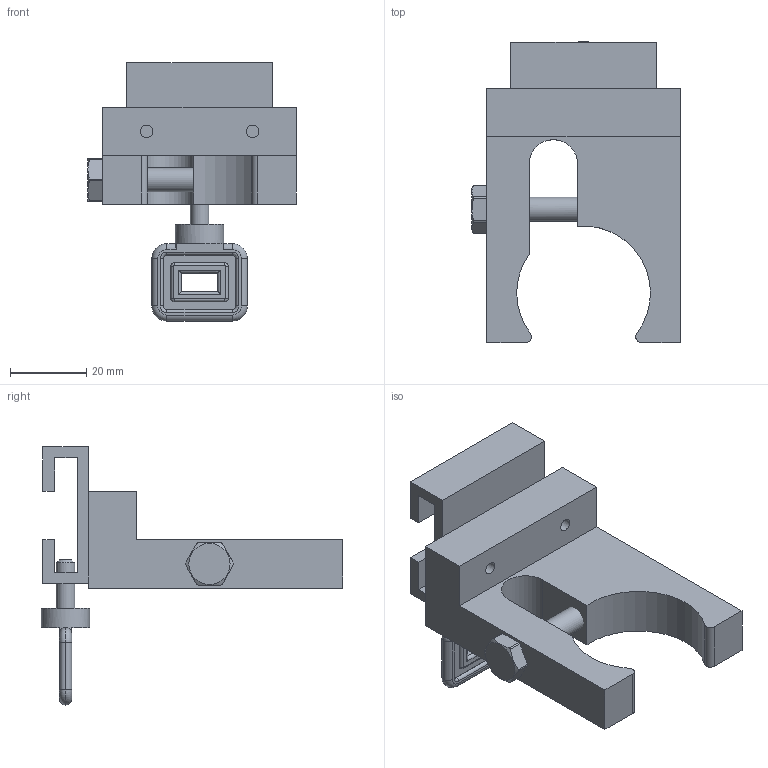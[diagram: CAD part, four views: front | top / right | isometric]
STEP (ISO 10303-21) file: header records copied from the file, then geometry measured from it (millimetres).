
FILE_DESCRIPTION((''),'2;1');
FILE_NAME('C:\3D Projects\3D Standard Parts\98327 Rev B Valve Mounting Bracket Kit For 97113 & 97114.stp','2008-04-24T10:35:18',('patch'),(''),'Autodesk Inventor 2008','Autodesk Inventor 2008','');
FILE_SCHEMA(('AUTOMOTIVE_DESIGN { 1 0 10303 214 1 1 1 1 }'));
Length unit declared in the file: inch
Products named in the file (6): 98327 Rev B Valve Mounting Bracket Kit For 97113 & 97114; 987960 Rev B Valve Mounting Bracket For 97113 & 97114; 987947 Rev A C-Clamp; 984331 Flat Head Socket Screw #8-32 x 0.5; 987948 Rev A Thumbscrew; 987903 Regular Hex Bolt 0.25-20 x 2
Assembly tree (6 placements, depth 2):
  98327 Rev B Valve Mounting Bracket Kit For 97113 & 97114
    987960 Rev B Valve Mounting Bracket For 97113 & 97114
    987947 Rev A C-Clamp
    984331 Flat Head Socket Screw #8-32 x 0.5  x2
    987948 Rev A Thumbscrew
    987903 Regular Hex Bolt 0.25-20 x 2
Bounding box: 54.77 x 78.99 x 67.67 mm (x, y, z)
Volume: 46793.6 mm3; surface area: 21099.6 mm2
Topology: 6 solids, 6 shells, 397 faces, 980 edges, 607 vertices
Faces by surface type: cylinder 142, cone 108, plane 94, bspline 34, torus 19
Full cylindrical faces by diameter (mm): 3.551 x22, 4.166 x22, 4.826 x1, 5.387 x14, 6.35 x14, 12.7 x1
Entity records: 12477 total; most frequent: CARTESIAN_POINT 5563, DIRECTION 1338, ORIENTED_EDGE 1304, EDGE_CURVE 652, AXIS2_PLACEMENT_3D 550, VERTEX_POINT 473, EDGE_LOOP 463, FACE_OUTER_BOUND 318
